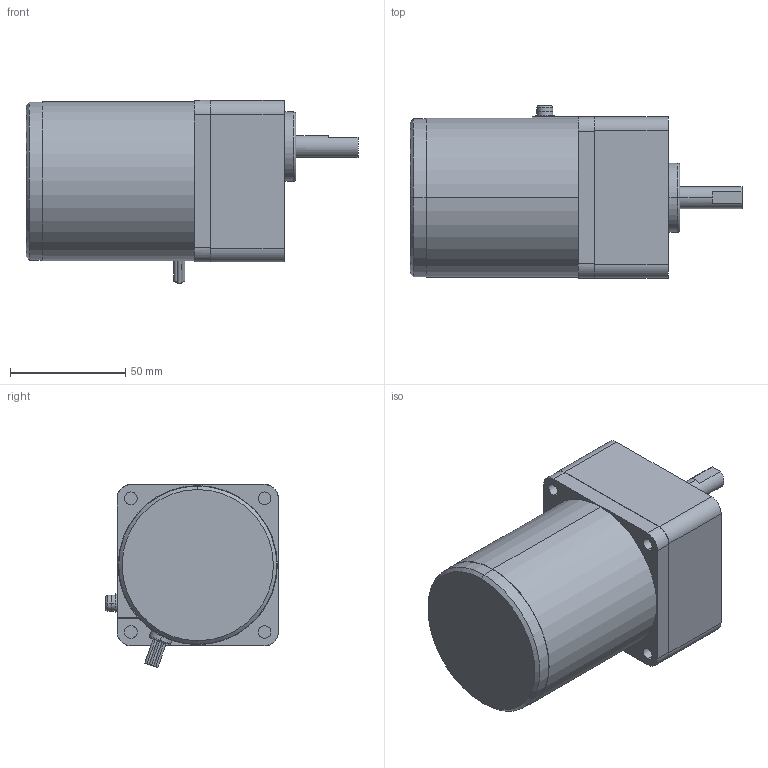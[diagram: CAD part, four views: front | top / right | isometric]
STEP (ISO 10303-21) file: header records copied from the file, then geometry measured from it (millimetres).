
FILE_DESCRIPTION(('starvars output'),'2;1');
FILE_NAME('3IK15GN-CW2E _ 3GN7.5SA.stp','10:27:09 2015/05/11',( 'Thomas Industrial Network Germany GmbH'),( 'Thomas Industrial Network Germany GmbH'),'unknown preprocess','ACIS' ,'unknown authorization');
FILE_SCHEMA(('AUTOMOTIVE_DESIGN_CC2 {UNKNOWN IMPLEMENTATION LEVEL}'));
Length unit declared in the file: millimetre
Products named in the file (1): PRODUCT_ID_327
Bounding box: 144 x 75 x 79.41 mm (x, y, z)
Volume: 460983.4 mm3; surface area: 41007.3 mm2
Topology: 1 solids, 1 shells, 112 faces, 252 edges, 163 vertices
Faces by surface type: cylinder 54, plane 50, torus 6, cone 2
Entity records: 3758 total; most frequent: ORIENTED_EDGE 504, CARTESIAN_POINT 502, DIRECTION 431, EDGE_CURVE 252, VERTEX_POINT 163, AXIS2_PLACEMENT_3D 162, EDGE_LOOP 133, FACE_BOUND 133
